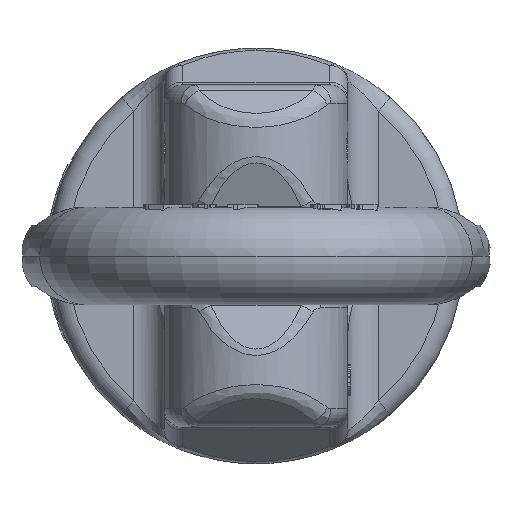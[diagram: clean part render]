
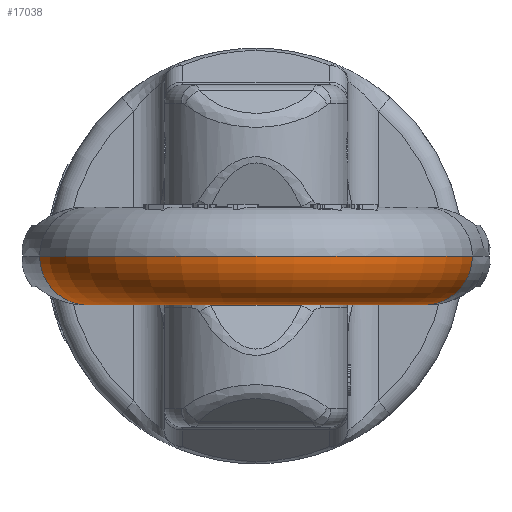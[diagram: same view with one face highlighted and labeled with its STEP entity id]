
A CAD part, left-side view. The second image highlights one B-rep face of the part: STEP entity #17038.
In plain terms, the highlighted toroidal (fillet/blend) face has major radius 28 mm and minor radius 8 mm.
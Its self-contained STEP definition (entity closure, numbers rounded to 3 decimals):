
#13468=CARTESIAN_POINT('',(-75.,0.,0.));
#13469=DIRECTION('',(0.,0.,1.));
#13470=DIRECTION('',(-0.18,0.984,0.));
#13471=AXIS2_PLACEMENT_3D('',#13468,#13469,#13470);
#14143=CARTESIAN_POINT('',(-80.049,-27.541,0.));
#14144=DIRECTION('',(0.984,-0.18,0.));
#14145=DIRECTION('',(-0.18,-0.984,0.));
#14146=AXIS2_PLACEMENT_3D('',#14143,#14144,#14145);
#14489=CARTESIAN_POINT('',(-80.049,27.541,0.));
#14490=DIRECTION('',(-0.984,-0.18,0.));
#14491=DIRECTION('',(-0.18,0.984,0.));
#14492=AXIS2_PLACEMENT_3D('',#14489,#14490,#14491);
#14494=CARTESIAN_POINT('',(-75.,0.,0.));
#14495=DIRECTION('',(0.,0.,1.));
#14496=DIRECTION('',(-0.18,0.984,0.));
#14497=AXIS2_PLACEMENT_3D('',#14494,#14495,#14496);
#16037=CARTESIAN_POINT('',(-78.607,19.672,0.));
#16038=CARTESIAN_POINT('',(-81.492,35.41,0.));
#16039=VERTEX_POINT('',#16037);
#16040=VERTEX_POINT('',#16038);
#16041=CARTESIAN_POINT('',(-78.607,-19.672,0.));
#16042=CARTESIAN_POINT('',(-81.492,-35.41,0.));
#16043=VERTEX_POINT('',#16041);
#16044=VERTEX_POINT('',#16042);
#17027=CARTESIAN_POINT('',(-75.,0.,0.));
#17028=DIRECTION('',(0.,0.,1.));
#17029=DIRECTION('',(0.18,-0.984,0.));
#17030=AXIS2_PLACEMENT_3D('',#17027,#17028,#17029);
#17031=TOROIDAL_SURFACE('',#17030,28.,8.);
#17032=ORIENTED_EDGE('',*,*,#16849,.F.);
#17033=ORIENTED_EDGE('',*,*,#16638,.T.);
#17034=ORIENTED_EDGE('',*,*,#16883,.T.);
#17035=ORIENTED_EDGE('',*,*,#16635,.F.);
#17036=EDGE_LOOP('',(#17032,#17033,#17034,#17035));
#17037=FACE_OUTER_BOUND('',#17036,.F.);
#17038=ADVANCED_FACE('',(#17037),#17031,.T.);
#13472=CIRCLE('',#13471,20.);
#14147=CIRCLE('',#14146,8.);
#14493=CIRCLE('',#14492,8.);
#14498=CIRCLE('',#14497,36.);
#16635=EDGE_CURVE('',#16039,#16043,#13472,.T.);
#16638=EDGE_CURVE('',#16040,#16044,#14498,.T.);
#16849=EDGE_CURVE('',#16040,#16039,#14493,.T.);
#16883=EDGE_CURVE('',#16044,#16043,#14147,.T.);
